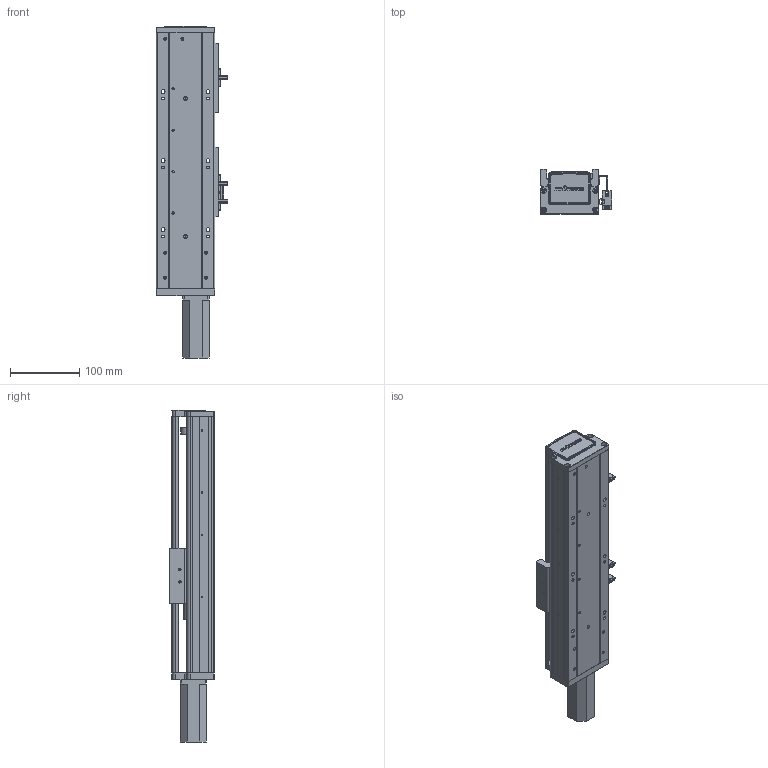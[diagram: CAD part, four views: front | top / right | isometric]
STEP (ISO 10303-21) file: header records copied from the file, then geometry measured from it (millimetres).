
FILE_DESCRIPTION (( 'STEP AP203' ), '1' );
FILE_NAME ('RY80-L1620-300-MK(100W).SLDASM_150.step', '2021-02-20T02:19:25', ( '' ), ( '' ), 'SwSTEP 2.0', 'SolidWorks 2012', '' );
FILE_SCHEMA (( 'CONFIG_CONTROL_DESIGN' ));
Length unit declared in the file: millimetre
Products named in the file (12): RY80-L1620-300-MK(100W).SLDASM_150; 侂狟100W; RY80俋离覜茼え; 滅袉蝶18-24; 覜茼ん672; RY80綴裔啣; 滅袉蝶18-10; 672嫖萇羲壽假蚾釱; RY80-300-MK倰第奻裔啣_150; RY80臏賑輸; RY80前盖板(100W电机)M3; RY80-300-MK倰第菁釱_150
Assembly tree (14 placements, depth 2):
  RY80-L1620-300-MK(100W).SLDASM_150
    RY80-300-MK倰第菁釱_150
    RY80臏賑輸
    RY80-300-MK倰第奻裔啣_150
    RY80前盖板(100W电机)M3
    RY80綴裔啣
    滅袉蝶18-10
    672嫖萇羲壽假蚾釱  x2
    覜茼ん672  x3
    RY80俋离覜茼え
    滅袉蝶18-24
    侂狟100W
Bounding box: 103.7 x 65 x 481 mm (x, y, z)
Volume: 807699.7 mm3; surface area: 316456.6 mm2
Topology: 14 solids, 14 shells, 1433 faces, 3979 edges, 2597 vertices
Faces by surface type: plane 876, cylinder 454, cone 69, bspline 34
Entity records: 43154 total; most frequent: CARTESIAN_POINT 10585, ORIENTED_EDGE 6726, DIRECTION 6130, EDGE_CURVE 3363, VECTOR 2222, LINE 2222, VERTEX_POINT 2213, AXIS2_PLACEMENT_3D 1954
